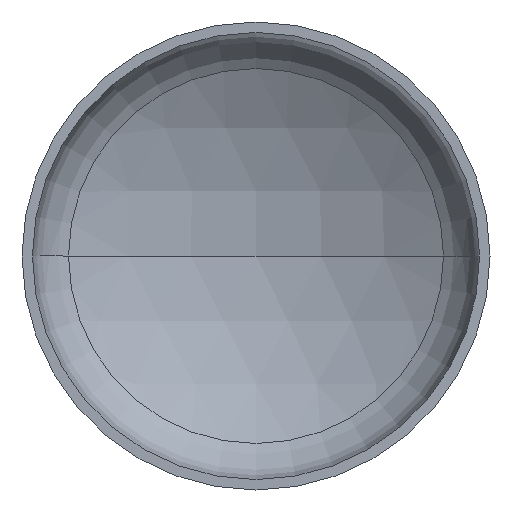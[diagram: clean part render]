
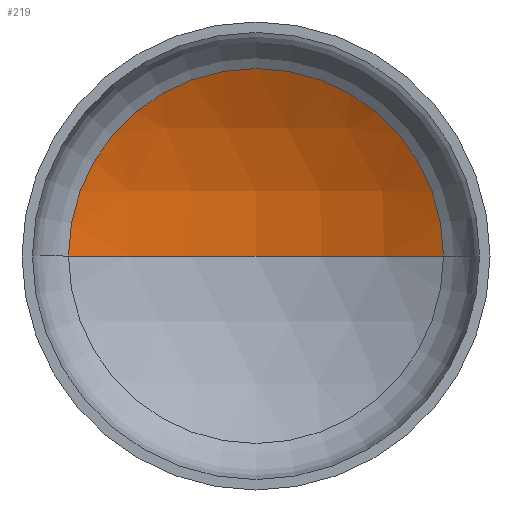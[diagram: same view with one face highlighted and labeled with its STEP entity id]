
A CAD part, front view. The second image highlights one B-rep face of the part: STEP entity #219.
In plain terms, the highlighted spherical face has radius 2720 mm.
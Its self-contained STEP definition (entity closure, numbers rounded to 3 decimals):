
#2 = AXIS2_PLACEMENT_3D ( 'NONE', #275, #76, #90 ) ;
#11 = AXIS2_PLACEMENT_3D ( 'NONE', #211, #144, #123 ) ;
#12 = ORIENTED_EDGE ( 'NONE', *, *, #354, .F. ) ;
#29 = AXIS2_PLACEMENT_3D ( 'NONE', #159, #160, #161 ) ;
#31 = AXIS2_PLACEMENT_3D ( 'NONE', #191, #192, #186 ) ;
#65 = EDGE_CURVE ( 'NONE', #79, #145, #344, .T. ) ;
#66 = EDGE_CURVE ( 'NONE', #78, #79, #270, .T. ) ;
#76 = DIRECTION ( 'NONE',  ( 0., 0., 1. ) ) ;
#78 = VERTEX_POINT ( 'NONE', #196 ) ;
#79 = VERTEX_POINT ( 'NONE', #331 ) ;
#90 = DIRECTION ( 'NONE',  ( 1., 0., 0. ) ) ;
#123 = DIRECTION ( 'NONE',  ( -1., 0., 0. ) ) ;
#144 = DIRECTION ( 'NONE',  ( 0., 0., -1. ) ) ;
#145 = VERTEX_POINT ( 'NONE', #231 ) ;
#159 = CARTESIAN_POINT ( 'NONE',  ( 0., -1780.059, 0. ) ) ;
#160 = DIRECTION ( 'NONE',  ( 0., 0., -1. ) ) ;
#161 = DIRECTION ( 'NONE',  ( -1., 0., 0. ) ) ;
#177 = ORIENTED_EDGE ( 'NONE', *, *, #65, .T. ) ;
#186 = DIRECTION ( 'NONE',  ( 1., 0., 0. ) ) ;
#189 = ORIENTED_EDGE ( 'NONE', *, *, #66, .T. ) ;
#191 = CARTESIAN_POINT ( 'NONE',  ( 0., 574.456, 0. ) ) ;
#192 = DIRECTION ( 'NONE',  ( 0., -1., 0. ) ) ;
#196 = CARTESIAN_POINT ( 'NONE',  ( 0., 939.941, 0. ) ) ;
#211 = CARTESIAN_POINT ( 'NONE',  ( 0., -1780.059, 0. ) ) ;
#219 = ADVANCED_FACE ( 'NONE', ( #266 ), #388, .F. ) ;
#231 = CARTESIAN_POINT ( 'NONE',  ( -1361.859, 574.456, 0. ) ) ;
#266 = FACE_OUTER_BOUND ( 'NONE', #303, .T. ) ;
#270 = CIRCLE ( 'NONE', #29, 2720. ) ;
#275 = CARTESIAN_POINT ( 'NONE',  ( 0., -1780.059, 0. ) ) ;
#303 = EDGE_LOOP ( 'NONE', ( #12, #189, #177 ) ) ;
#331 = CARTESIAN_POINT ( 'NONE',  ( 1361.859, 574.456, 0. ) ) ;
#344 = CIRCLE ( 'NONE', #31, 1361.859 ) ;
#354 = EDGE_CURVE ( 'NONE', #78, #145, #365, .T. ) ;
#365 = CIRCLE ( 'NONE', #2, 2720. ) ;
#388 = SPHERICAL_SURFACE ( 'NONE', #11, 2720. ) ;
